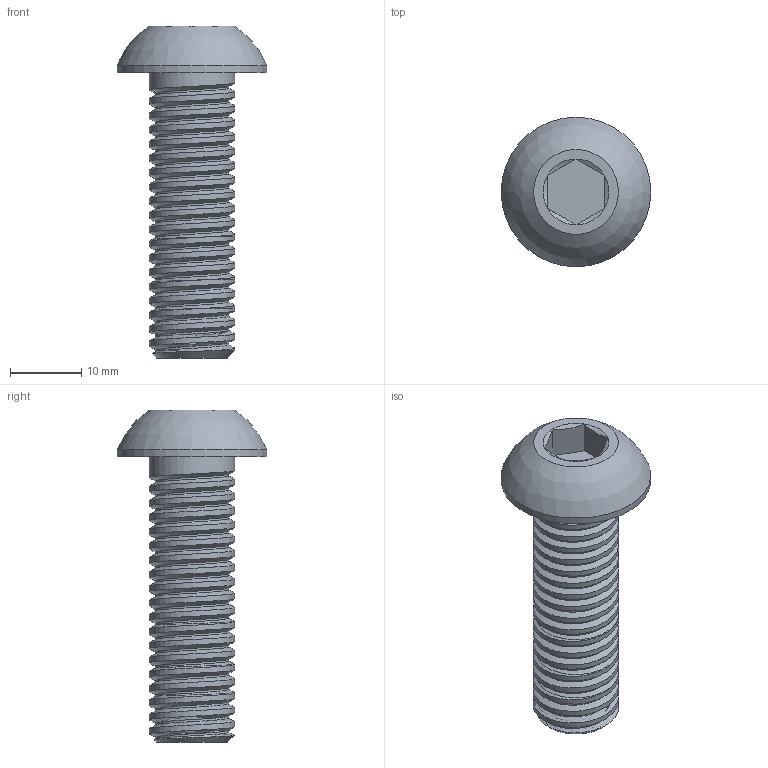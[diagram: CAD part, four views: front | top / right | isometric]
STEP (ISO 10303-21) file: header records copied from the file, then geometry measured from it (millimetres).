
FILE_DESCRIPTION( ( '' ), ' ' );
FILE_NAME( '/vol/tmp/translate-197090394300733138/5b233e7c24bd040ec7932839.step', '2018-06-15T04:20:12', ( '' ), ( '' ), ' ', ' ', ' ' );
FILE_SCHEMA( ( 'AUTOMOTIVE_DESIGN { 1 0 10303 214 1 1 1 1 }' ) );
Length unit declared in the file: metre
Products named in the file (12): M#Size X 70; M12 X 65; M12 x 60; M12 X 55; M12 X 50; M12 X 45; M12 X 25; M12 x 30; M12 x 35; Curve 1; Surface 1; M12 x 40
Bounding box: 21 x 21 x 46.59 mm (x, y, z)
Surface area: 30100 mm2
Topology: 10 solids, 11 shells, 435 faces, 1016 edges, 622 vertices
Faces by surface type: cylinder 205, plane 130, cone 70, bspline 20, sphere 10
Full cylindrical faces by diameter (mm): 9.85 x1, 12 x174, 21 x10
Entity records: 28047 total; most frequent: CARTESIAN_POINT 21070, DIRECTION 990, ORIENTED_EDGE 902, EDGE_CURVE 452, AXIS2_PLACEMENT_3D 405, EDGE_LOOP 322, FACE_OUTER_BOUND 290, VERTEX_POINT 272
